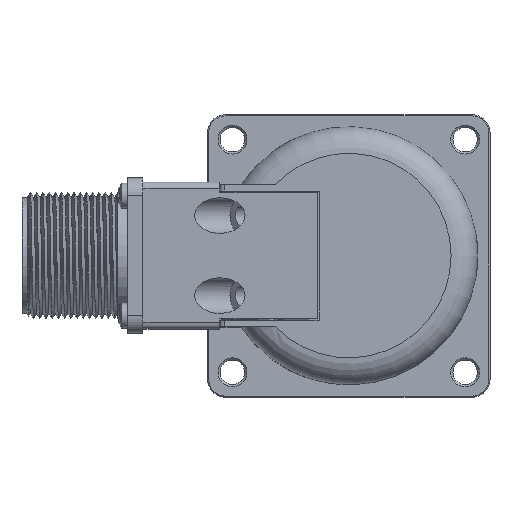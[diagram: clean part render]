
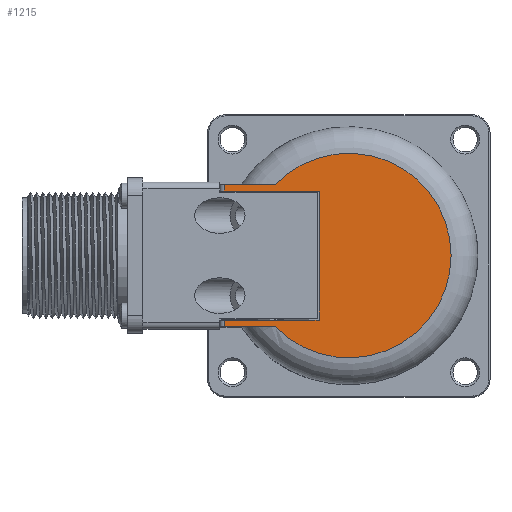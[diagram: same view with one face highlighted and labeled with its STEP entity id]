
A CAD part, top view. The second image highlights one B-rep face of the part: STEP entity #1215.
In plain terms, the highlighted planar face has unit normal (0, 0, 1).
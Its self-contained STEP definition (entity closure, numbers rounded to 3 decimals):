
#1215 = ADVANCED_FACE( '', ( #2915 ), #2916, .T. );
#2915 = FACE_OUTER_BOUND( '', #9798, .T. );
#2916 = PLANE( '', #9799 );
#9798 = EDGE_LOOP( '', ( #21380, #21381, #21382, #21383, #21384, #21385, #21386, #21387 ) );
#9799 = AXIS2_PLACEMENT_3D( '', #21388, #21389, #21390 );
#21380 = ORIENTED_EDGE( '', *, *, #25592, .T. );
#21381 = ORIENTED_EDGE( '', *, *, #25593, .T. );
#21382 = ORIENTED_EDGE( '', *, *, #25594, .T. );
#21383 = ORIENTED_EDGE( '', *, *, #25595, .T. );
#21384 = ORIENTED_EDGE( '', *, *, #25459, .F. );
#21385 = ORIENTED_EDGE( '', *, *, #25596, .F. );
#21386 = ORIENTED_EDGE( '', *, *, #25597, .T. );
#21387 = ORIENTED_EDGE( '', *, *, #25598, .T. );
#21388 = CARTESIAN_POINT( '', ( -29., 29., 49.9 ) );
#21389 = DIRECTION( '', ( 0., 0., 1. ) );
#21390 = DIRECTION( '', ( 0., -1., 0. ) );
#25459 = EDGE_CURVE( '', #28219, #28214, #28221, .T. );
#25592 = EDGE_CURVE( '', #28408, #28409, #28410, .T. );
#25593 = EDGE_CURVE( '', #28409, #28411, #28412, .T. );
#25594 = EDGE_CURVE( '', #28411, #28413, #28414, .T. );
#25595 = EDGE_CURVE( '', #28413, #28214, #28415, .T. );
#25596 = EDGE_CURVE( '', #28416, #28219, #28417, .T. );
#25597 = EDGE_CURVE( '', #28416, #28418, #28419, .T. );
#25598 = EDGE_CURVE( '', #28418, #28408, #28420, .T. );
#28214 = VERTEX_POINT( '', #34188 );
#28219 = VERTEX_POINT( '', #34195 );
#28221 = LINE( '', #34198, #34199 );
#28408 = VERTEX_POINT( '', #34555 );
#28409 = VERTEX_POINT( '', #34556 );
#28410 = CIRCLE( '', #34557, 23. );
#28411 = VERTEX_POINT( '', #34558 );
#28412 = LINE( '', #34559, #34560 );
#28413 = VERTEX_POINT( '', #34561 );
#28414 = LINE( '', #34562, #34563 );
#28415 = LINE( '', #34564, #34565 );
#28416 = VERTEX_POINT( '', #34566 );
#28417 = LINE( '', #34567, #34568 );
#28418 = VERTEX_POINT( '', #34569 );
#28419 = LINE( '', #34570, #34571 );
#28420 = LINE( '', #34572, #34573 );
#34188 = CARTESIAN_POINT( '', ( -6.7, 14.5, 49.9 ) );
#34195 = CARTESIAN_POINT( '', ( -6.7, -14.5, 49.9 ) );
#34198 = CARTESIAN_POINT( '', ( -6.7, -14.5, 49.9 ) );
#34199 = VECTOR( '', #40290, 1000. );
#34555 = CARTESIAN_POINT( '', ( -16.523, -16., 49.9 ) );
#34556 = CARTESIAN_POINT( '', ( -16.523, 16., 49.9 ) );
#34557 = AXIS2_PLACEMENT_3D( '', #40425, #40426, #40427 );
#34558 = CARTESIAN_POINT( '', ( -28., 16., 49.9 ) );
#34559 = CARTESIAN_POINT( '', ( -29., 16., 49.9 ) );
#34560 = VECTOR( '', #40428, 1000. );
#34561 = CARTESIAN_POINT( '', ( -28., 14.5, 49.9 ) );
#34562 = CARTESIAN_POINT( '', ( -28., 14.5, 49.9 ) );
#34563 = VECTOR( '', #40429, 1000. );
#34564 = CARTESIAN_POINT( '', ( -29., 14.5, 49.9 ) );
#34565 = VECTOR( '', #40430, 1000. );
#34566 = CARTESIAN_POINT( '', ( -28., -14.5, 49.9 ) );
#34567 = CARTESIAN_POINT( '', ( -29., -14.5, 49.9 ) );
#34568 = VECTOR( '', #40431, 1000. );
#34569 = CARTESIAN_POINT( '', ( -28., -16., 49.9 ) );
#34570 = CARTESIAN_POINT( '', ( -28., -16., 49.9 ) );
#34571 = VECTOR( '', #40432, 1000. );
#34572 = CARTESIAN_POINT( '', ( -24.187, -16., 49.9 ) );
#34573 = VECTOR( '', #40433, 1000. );
#40290 = DIRECTION( '', ( 0., 1., 0. ) );
#40425 = CARTESIAN_POINT( '', ( 0., 0., 49.9 ) );
#40426 = DIRECTION( '', ( 0., 0., 1. ) );
#40427 = DIRECTION( '', ( 0., -1., 0. ) );
#40428 = DIRECTION( '', ( -1., 0., 0. ) );
#40429 = DIRECTION( '', ( 0., -1., 0. ) );
#40430 = DIRECTION( '', ( 1., 0., 0. ) );
#40431 = DIRECTION( '', ( 1., 0., 0. ) );
#40432 = DIRECTION( '', ( 0., -1., 0. ) );
#40433 = DIRECTION( '', ( 1., 0., 0. ) );
